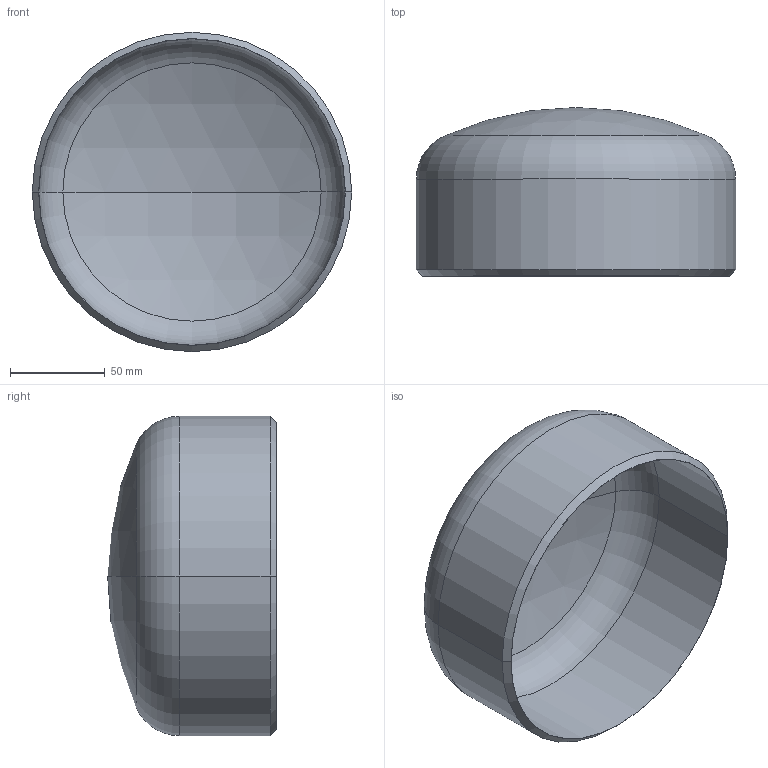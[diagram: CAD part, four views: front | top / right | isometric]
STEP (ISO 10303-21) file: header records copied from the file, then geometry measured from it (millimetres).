
FILE_DESCRIPTION (( 'STEP AP203' ), '1' );
FILE_NAME ('3D_R275_6x10S_173455230.STEP', '2024-08-23T12:21:02', ( '' ), ( '' ), 'SwSTEP 2.0', 'SolidWorks 2024', '' );
FILE_SCHEMA (( 'CONFIG_CONTROL_DESIGN' ));
Length unit declared in the file: millimetre
Products named in the file (1): 3D_R275_6x10S_173455230
Bounding box: 168.3 x 88.9 x 168.3 mm (x, y, z)
Volume: 184335.4 mm3; surface area: 110853.2 mm2
Topology: 1 solids, 1 shells, 15 faces, 28 edges, 16 vertices
Faces by surface type: sphere 4, torus 4, cylinder 4, cone 2, plane 1
Entity records: 457 total; most frequent: DIRECTION 82, CARTESIAN_POINT 60, ORIENTED_EDGE 56, AXIS2_PLACEMENT_3D 38, EDGE_CURVE 28, CIRCLE 22, VERTEX_POINT 16, EDGE_LOOP 16
